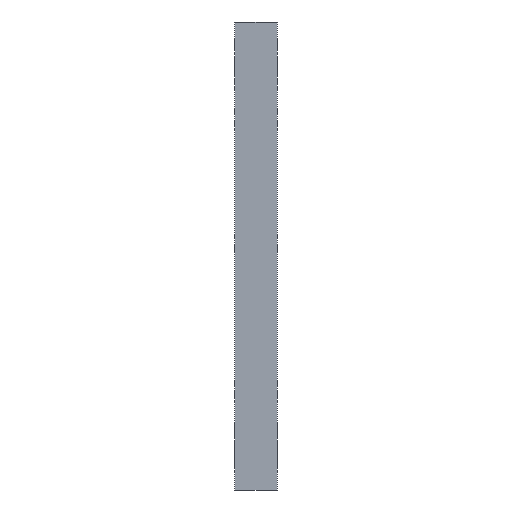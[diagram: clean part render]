
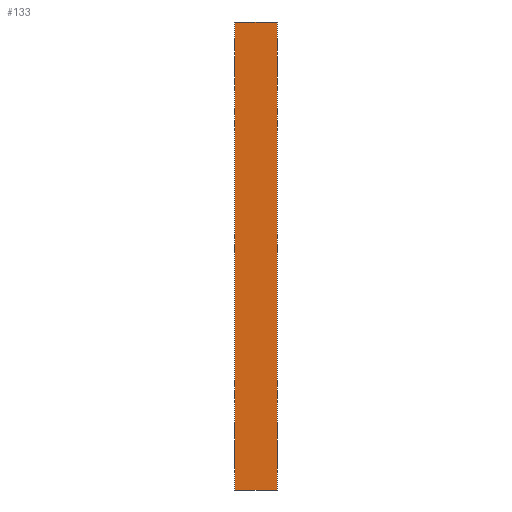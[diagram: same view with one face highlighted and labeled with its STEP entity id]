
A CAD part, left-side view. The second image highlights one B-rep face of the part: STEP entity #133.
In plain terms, the highlighted planar face has unit normal (-1, 0, 0).
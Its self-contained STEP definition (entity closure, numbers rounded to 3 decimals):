
#14 = VERTEX_POINT ( 'NONE', #762 ) ;
#22 = DIRECTION ( 'NONE',  ( 0., -1., 0. ) ) ;
#34 = VECTOR ( 'NONE', #755, 1000. ) ;
#48 = FACE_OUTER_BOUND ( 'NONE', #61, .T. ) ;
#52 = EDGE_CURVE ( 'NONE', #747, #300, #471, .T. ) ;
#55 = DIRECTION ( 'NONE',  ( 0., 0., 1. ) ) ;
#61 = EDGE_LOOP ( 'NONE', ( #534, #339, #129, #387 ) ) ;
#85 = LINE ( 'NONE', #175, #34 ) ;
#92 = CARTESIAN_POINT ( 'NONE',  ( -198., 36., 198. ) ) ;
#95 = VECTOR ( 'NONE', #22, 1000. ) ;
#123 = AXIS2_PLACEMENT_3D ( 'NONE', #92, #537, #167 ) ;
#129 = ORIENTED_EDGE ( 'NONE', *, *, #176, .F. ) ;
#133 = ADVANCED_FACE ( 'NONE', ( #48 ), #660, .F. ) ;
#161 = CARTESIAN_POINT ( 'NONE',  ( -198., 0., -198. ) ) ;
#167 = DIRECTION ( 'NONE',  ( 0., 0., -1. ) ) ;
#175 = CARTESIAN_POINT ( 'NONE',  ( -198., 36., 198. ) ) ;
#176 = EDGE_CURVE ( 'NONE', #747, #330, #792, .T. ) ;
#217 = VECTOR ( 'NONE', #527, 1000. ) ;
#248 = CARTESIAN_POINT ( 'NONE',  ( -198., 36., -198. ) ) ;
#300 = VERTEX_POINT ( 'NONE', #161 ) ;
#306 = CARTESIAN_POINT ( 'NONE',  ( -198., 36., 198. ) ) ;
#330 = VERTEX_POINT ( 'NONE', #306 ) ;
#339 = ORIENTED_EDGE ( 'NONE', *, *, #634, .F. ) ;
#341 = CARTESIAN_POINT ( 'NONE',  ( -198., 0., 198. ) ) ;
#387 = ORIENTED_EDGE ( 'NONE', *, *, #52, .T. ) ;
#471 = LINE ( 'NONE', #637, #95 ) ;
#504 = EDGE_CURVE ( 'NONE', #300, #14, #659, .T. ) ;
#527 = DIRECTION ( 'NONE',  ( 0., 0., 1. ) ) ;
#534 = ORIENTED_EDGE ( 'NONE', *, *, #504, .T. ) ;
#537 = DIRECTION ( 'NONE',  ( 1., 0., 0. ) ) ;
#634 = EDGE_CURVE ( 'NONE', #330, #14, #85, .T. ) ;
#637 = CARTESIAN_POINT ( 'NONE',  ( -198., 36., -198. ) ) ;
#659 = LINE ( 'NONE', #341, #217 ) ;
#660 = PLANE ( 'NONE',  #123 ) ;
#734 = CARTESIAN_POINT ( 'NONE',  ( -198., 36., 198. ) ) ;
#737 = VECTOR ( 'NONE', #55, 1000. ) ;
#747 = VERTEX_POINT ( 'NONE', #248 ) ;
#755 = DIRECTION ( 'NONE',  ( 0., -1., 0. ) ) ;
#762 = CARTESIAN_POINT ( 'NONE',  ( -198., 0., 198. ) ) ;
#792 = LINE ( 'NONE', #734, #737 ) ;
